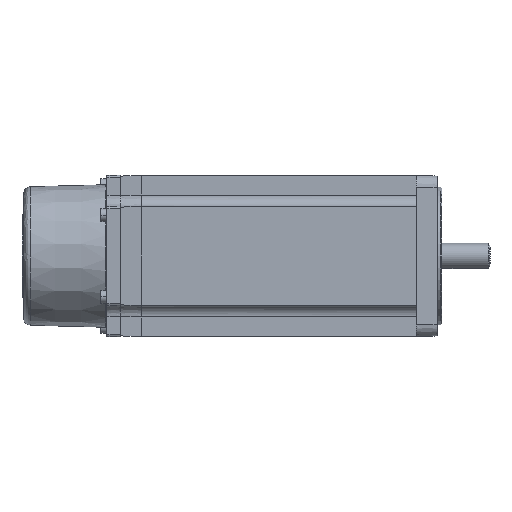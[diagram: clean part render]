
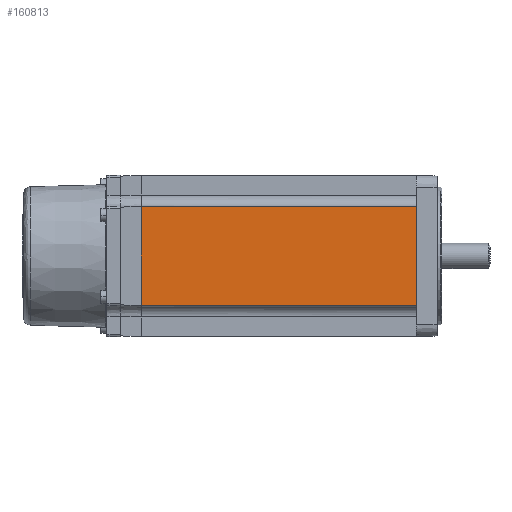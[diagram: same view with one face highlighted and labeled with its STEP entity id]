
A CAD part, front view. The second image highlights one B-rep face of the part: STEP entity #160813.
In plain terms, the highlighted planar face has unit normal (0, -1, 0) as drawn and (0, 1, 0) by its records, which use the part's own axes.
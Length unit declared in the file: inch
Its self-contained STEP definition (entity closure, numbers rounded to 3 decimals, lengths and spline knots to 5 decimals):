
#4390 = LINE ( 'NONE', #60966, #72591 ) ;
#8611 = EDGE_LOOP ( 'NONE', ( #25950, #26744, #13588, #71716 ) ) ;
#11848 = VECTOR ( 'NONE', #42346, 39.37008 ) ;
#13588 = ORIENTED_EDGE ( 'NONE', *, *, #157731, .F. ) ;
#16017 = LINE ( 'NONE', #70950, #114280 ) ;
#16439 = VERTEX_POINT ( 'NONE', #136229 ) ;
#17122 = CARTESIAN_POINT ( 'NONE',  ( 0.84711, 1.37795, -1.25984 ) ) ;
#20558 = VERTEX_POINT ( 'NONE', #112529 ) ;
#25950 = ORIENTED_EDGE ( 'NONE', *, *, #132441, .F. ) ;
#26744 = ORIENTED_EDGE ( 'NONE', *, *, #98624, .F. ) ;
#33942 = LINE ( 'NONE', #147705, #98062 ) ;
#42346 = DIRECTION ( 'NONE',  ( 0., 0., 1. ) ) ;
#45334 = CARTESIAN_POINT ( 'NONE',  ( -0.84711, 1.37795, 3.44882 ) ) ;
#46269 = EDGE_CURVE ( 'NONE', #133613, #127028, #16017, .T. ) ;
#50006 = AXIS2_PLACEMENT_3D ( 'NONE', #120608, #56142, #159318 ) ;
#56142 = DIRECTION ( 'NONE',  ( 0., 1., 0. ) ) ;
#60966 = CARTESIAN_POINT ( 'NONE',  ( -1.37795, 1.37795, -1.25984 ) ) ;
#70950 = CARTESIAN_POINT ( 'NONE',  ( -1.37795, 1.37795, 3.44882 ) ) ;
#71716 = ORIENTED_EDGE ( 'NONE', *, *, #46269, .T. ) ;
#72591 = VECTOR ( 'NONE', #150592, 39.37008 ) ;
#76008 = LINE ( 'NONE', #17122, #11848 ) ;
#84431 = DIRECTION ( 'NONE',  ( 0., 0., -1. ) ) ;
#98062 = VECTOR ( 'NONE', #84431, 39.37008 ) ;
#98624 = EDGE_CURVE ( 'NONE', #20558, #16439, #4390, .T. ) ;
#112529 = CARTESIAN_POINT ( 'NONE',  ( -0.84711, 1.37795, -1.25984 ) ) ;
#114280 = VECTOR ( 'NONE', #160614, 39.37008 ) ;
#120608 = CARTESIAN_POINT ( 'NONE',  ( -1.37795, 1.37795, 3.44882 ) ) ;
#127028 = VERTEX_POINT ( 'NONE', #164111 ) ;
#132441 = EDGE_CURVE ( 'NONE', #16439, #127028, #76008, .T. ) ;
#133613 = VERTEX_POINT ( 'NONE', #45334 ) ;
#136229 = CARTESIAN_POINT ( 'NONE',  ( 0.84711, 1.37795, -1.25984 ) ) ;
#146374 = PLANE ( 'NONE',  #50006 ) ;
#147705 = CARTESIAN_POINT ( 'NONE',  ( -0.84711, 1.37795, 4.6063 ) ) ;
#150592 = DIRECTION ( 'NONE',  ( 1., 0., 0. ) ) ;
#153169 = FACE_OUTER_BOUND ( 'NONE', #8611, .T. ) ;
#157731 = EDGE_CURVE ( 'NONE', #133613, #20558, #33942, .T. ) ;
#159318 = DIRECTION ( 'NONE',  ( 0., 0., 1. ) ) ;
#160614 = DIRECTION ( 'NONE',  ( 1., 0., 0. ) ) ;
#160813 = ADVANCED_FACE ( 'NONE', ( #153169 ), #146374, .T. ) ;
#164111 = CARTESIAN_POINT ( 'NONE',  ( 0.84711, 1.37795, 3.44882 ) ) ;
